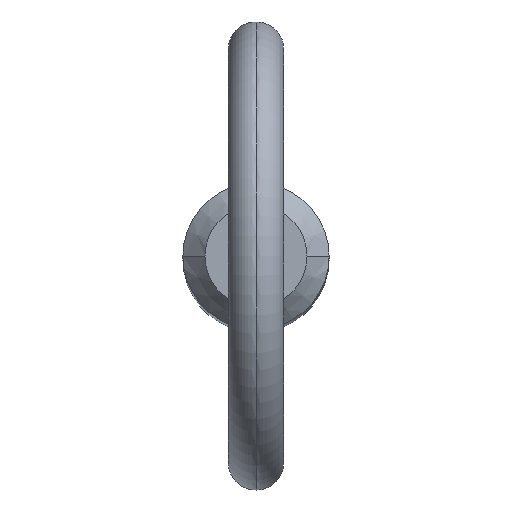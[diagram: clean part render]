
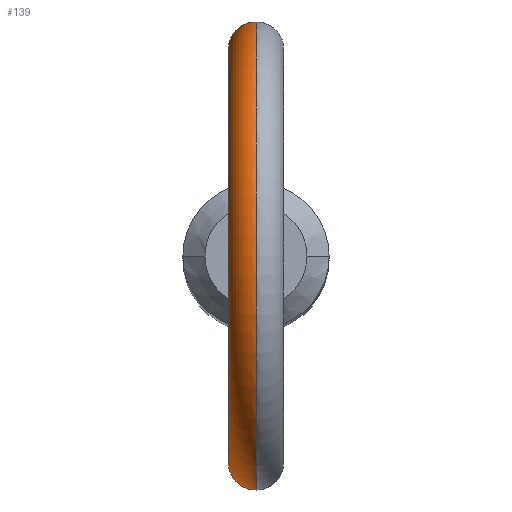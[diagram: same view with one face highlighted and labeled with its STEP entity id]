
A CAD part, top view. The second image highlights one B-rep face of the part: STEP entity #139.
In plain terms, the highlighted toroidal (fillet/blend) face has major radius 11.2 mm and minor radius 1.5 mm.
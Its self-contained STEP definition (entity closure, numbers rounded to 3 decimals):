
#5 = B_SPLINE_CURVE_WITH_KNOTS ( 'NONE', 3,
 ( #224, #134, #17, #308, #16, #429, #136, #434, #24, #190, #177, #382, #464, #380, #503, #61, #102, #226, #98, #263, #259, #59 ),
 .UNSPECIFIED., .F., .F.,
 ( 4, 2, 2, 2, 2, 2, 2, 2, 2, 2, 4 ),
 ( 0.009, 0.01, 0.01, 0.011, 0.011, 0.012, 0.012, 0.013, 0.013, 0.014, 0.014 ),
 .UNSPECIFIED. ) ;
#11 = CARTESIAN_POINT ( 'NONE',  ( 0., 3.965, 74.335 ) ) ;
#16 = CARTESIAN_POINT ( 'NONE',  ( -0.957, -3.85, 74.641 ) ) ;
#17 = CARTESIAN_POINT ( 'NONE',  ( -0.41, -3.948, 74.374 ) ) ;
#24 = CARTESIAN_POINT ( 'NONE',  ( -1.379, -3.718, 75.203 ) ) ;
#25 = CARTESIAN_POINT ( 'NONE',  ( -1.167, 3.79, 74.859 ) ) ;
#36 = CARTESIAN_POINT ( 'NONE',  ( -0.406, 3.945, 74.383 ) ) ;
#46 = AXIS2_PLACEMENT_3D ( 'NONE', #364, #128, #221 ) ;
#52 = AXIS2_PLACEMENT_3D ( 'NONE', #105, #395, #511 ) ;
#53 = CARTESIAN_POINT ( 'NONE',  ( -0.409, 3.948, 77.492 ) ) ;
#56 = CARTESIAN_POINT ( 'NONE',  ( -1.488, 3.675, 76.109 ) ) ;
#59 = CARTESIAN_POINT ( 'NONE',  ( 0., -3.965, 77.547 ) ) ;
#61 = CARTESIAN_POINT ( 'NONE',  ( -0.925, -3.858, 77.168 ) ) ;
#92 = TOROIDAL_SURFACE ( 'NONE', #46, 11.2, 1.5 ) ;
#96 = CARTESIAN_POINT ( 'NONE',  ( -1.481, 3.679, 75.491 ) ) ;
#98 = CARTESIAN_POINT ( 'NONE',  ( -0.403, -3.946, 77.482 ) ) ;
#99 = CIRCLE ( 'NONE', #52, 12.7 ) ;
#102 = CARTESIAN_POINT ( 'NONE',  ( -0.77, -3.894, 77.3 ) ) ;
#105 = CARTESIAN_POINT ( 'NONE',  ( 0., 0., 86.4 ) ) ;
#128 = DIRECTION ( 'NONE',  ( 1., 0., 0. ) ) ;
#134 = CARTESIAN_POINT ( 'NONE',  ( -0.205, -3.965, 74.335 ) ) ;
#136 = CARTESIAN_POINT ( 'NONE',  ( -1.229, -3.77, 74.939 ) ) ;
#139 = ADVANCED_FACE ( 'NONE', ( #473 ), #92, .T. ) ;
#146 = CARTESIAN_POINT ( 'NONE',  ( -0.785, 3.891, 74.527 ) ) ;
#162 = VERTEX_POINT ( 'NONE', #11 ) ;
#164 = B_SPLINE_CURVE_WITH_KNOTS ( 'NONE', 3,
 ( #184, #351, #53, #181, #432, #234, #261, #344, #507, #388, #56, #346, #96, #295, #384, #265, #25, #440, #146, #237, #36, #241, #474, #357 ),
 .UNSPECIFIED., .F., .F.,
 ( 4, 2, 2, 2, 2, 2, 2, 2, 2, 2, 2, 4 ),
 ( 0.006, 0.006, 0.007, 0.007, 0.007, 0.008, 0.009, 0.009, 0.009, 0.01, 0.01, 0.01 ),
 .UNSPECIFIED. ) ;
#173 = EDGE_LOOP ( 'NONE', ( #238, #353, #329, #450 ) ) ;
#177 = CARTESIAN_POINT ( 'NONE',  ( -1.508, -3.667, 75.697 ) ) ;
#181 = CARTESIAN_POINT ( 'NONE',  ( -0.678, 3.908, 77.349 ) ) ;
#184 = CARTESIAN_POINT ( 'NONE',  ( 0., 3.965, 77.547 ) ) ;
#190 = CARTESIAN_POINT ( 'NONE',  ( -1.48, -3.679, 75.489 ) ) ;
#213 = CARTESIAN_POINT ( 'NONE',  ( 0., -3.965, 77.547 ) ) ;
#221 = DIRECTION ( 'NONE',  ( 0., 0., -1. ) ) ;
#224 = CARTESIAN_POINT ( 'NONE',  ( 0., -3.965, 74.335 ) ) ;
#226 = CARTESIAN_POINT ( 'NONE',  ( -0.498, -3.935, 77.444 ) ) ;
#234 = CARTESIAN_POINT ( 'NONE',  ( -0.919, 3.858, 77.163 ) ) ;
#237 = CARTESIAN_POINT ( 'NONE',  ( -0.503, 3.934, 74.412 ) ) ;
#238 = ORIENTED_EDGE ( 'NONE', *, *, #427, .F. ) ;
#241 = CARTESIAN_POINT ( 'NONE',  ( -0.206, 3.961, 74.345 ) ) ;
#246 = VERTEX_POINT ( 'NONE', #251 ) ;
#251 = CARTESIAN_POINT ( 'NONE',  ( 0., -3.965, 74.335 ) ) ;
#259 = CARTESIAN_POINT ( 'NONE',  ( -0.102, -3.965, 77.547 ) ) ;
#261 = CARTESIAN_POINT ( 'NONE',  ( -0.99, 3.84, 77.092 ) ) ;
#263 = CARTESIAN_POINT ( 'NONE',  ( -0.206, -3.961, 77.534 ) ) ;
#265 = CARTESIAN_POINT ( 'NONE',  ( -1.23, 3.77, 74.94 ) ) ;
#295 = CARTESIAN_POINT ( 'NONE',  ( -1.379, 3.718, 75.202 ) ) ;
#308 = CARTESIAN_POINT ( 'NONE',  ( -0.788, -3.891, 74.528 ) ) ;
#312 = DIRECTION ( 'NONE',  ( 0., 0., -1. ) ) ;
#329 = ORIENTED_EDGE ( 'NONE', *, *, #471, .T. ) ;
#344 = CARTESIAN_POINT ( 'NONE',  ( -1.186, 3.786, 76.86 ) ) ;
#346 = CARTESIAN_POINT ( 'NONE',  ( -1.508, 3.667, 75.697 ) ) ;
#351 = CARTESIAN_POINT ( 'NONE',  ( -0.206, 3.965, 77.547 ) ) ;
#353 = ORIENTED_EDGE ( 'NONE', *, *, #405, .F. ) ;
#357 = CARTESIAN_POINT ( 'NONE',  ( 0., 3.965, 74.335 ) ) ;
#358 = CIRCLE ( 'NONE', #467, 9.7 ) ;
#364 = CARTESIAN_POINT ( 'NONE',  ( 0., 0., 86.4 ) ) ;
#370 = VERTEX_POINT ( 'NONE', #213 ) ;
#376 = VERTEX_POINT ( 'NONE', #461 ) ;
#379 = EDGE_CURVE ( 'NONE', #246, #370, #5, .T. ) ;
#380 = CARTESIAN_POINT ( 'NONE',  ( -1.29, -3.75, 76.685 ) ) ;
#382 = CARTESIAN_POINT ( 'NONE',  ( -1.488, -3.675, 76.105 ) ) ;
#384 = CARTESIAN_POINT ( 'NONE',  ( -1.336, 3.734, 75.112 ) ) ;
#388 = CARTESIAN_POINT ( 'NONE',  ( -1.442, 3.694, 76.306 ) ) ;
#395 = DIRECTION ( 'NONE',  ( 1., 0., 0. ) ) ;
#405 = EDGE_CURVE ( 'NONE', #376, #162, #164, .T. ) ;
#427 = EDGE_CURVE ( 'NONE', #162, #246, #99, .T. ) ;
#429 = CARTESIAN_POINT ( 'NONE',  ( -1.168, -3.79, 74.859 ) ) ;
#432 = CARTESIAN_POINT ( 'NONE',  ( -0.763, 3.892, 77.291 ) ) ;
#434 = CARTESIAN_POINT ( 'NONE',  ( -1.335, -3.734, 75.11 ) ) ;
#435 = CARTESIAN_POINT ( 'NONE',  ( 0., 0., 86.4 ) ) ;
#440 = CARTESIAN_POINT ( 'NONE',  ( -0.958, 3.85, 74.643 ) ) ;
#450 = ORIENTED_EDGE ( 'NONE', *, *, #379, .F. ) ;
#461 = CARTESIAN_POINT ( 'NONE',  ( 0., 3.965, 77.547 ) ) ;
#464 = CARTESIAN_POINT ( 'NONE',  ( -1.441, -3.695, 76.308 ) ) ;
#466 = DIRECTION ( 'NONE',  ( 1., 0., 0. ) ) ;
#467 = AXIS2_PLACEMENT_3D ( 'NONE', #435, #466, #312 ) ;
#471 = EDGE_CURVE ( 'NONE', #376, #370, #358, .T. ) ;
#473 = FACE_OUTER_BOUND ( 'NONE', #173, .T. ) ;
#474 = CARTESIAN_POINT ( 'NONE',  ( -0.102, 3.965, 74.335 ) ) ;
#503 = CARTESIAN_POINT ( 'NONE',  ( -1.186, -3.786, 76.86 ) ) ;
#507 = CARTESIAN_POINT ( 'NONE',  ( -1.29, 3.75, 76.686 ) ) ;
#511 = DIRECTION ( 'NONE',  ( 0., 0., -1. ) ) ;
